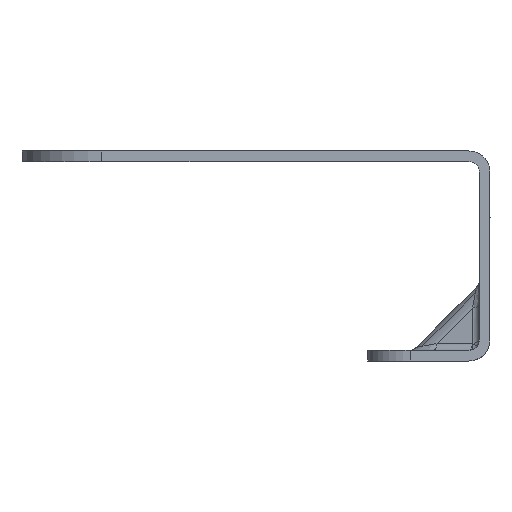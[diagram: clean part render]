
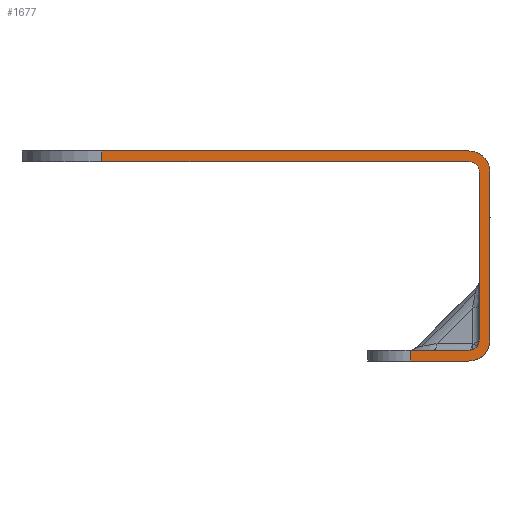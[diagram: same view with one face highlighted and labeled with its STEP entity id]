
A CAD part, front view. The second image highlights one B-rep face of the part: STEP entity #1677.
In plain terms, the highlighted planar face has unit normal (0, -1, 0).
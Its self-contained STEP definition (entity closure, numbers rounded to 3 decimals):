
#1549=AXIS2_PLACEMENT_3D('Circle Axis2P3D',#1547,#1548,$) ;
#1562=AXIS2_PLACEMENT_3D('Plane Axis2P3D',#1559,#1560,#1561) ;
#1582=AXIS2_PLACEMENT_3D('Circle Axis2P3D',#1580,#1581,$) ;
#1589=AXIS2_PLACEMENT_3D('Circle Axis2P3D',#1587,#1588,$) ;
#441=CARTESIAN_POINT('Vertex',(1473.999,-738.999,78.)) ;
#444=CARTESIAN_POINT('Line Origine',(1473.999,-738.999,62.25)) ;
#448=CARTESIAN_POINT('Vertex',(1473.999,-738.999,46.5)) ;
#1111=CARTESIAN_POINT('Vertex',(1469.999,-738.999,42.5)) ;
#1114=CARTESIAN_POINT('Line Origine',(1464.499,-738.999,42.5)) ;
#1118=CARTESIAN_POINT('Vertex',(1458.999,-738.999,42.5)) ;
#1544=CARTESIAN_POINT('Vertex',(1469.999,-738.999,82.)) ;
#1547=CARTESIAN_POINT('Axis2P3D Location',(1469.999,-738.999,78.)) ;
#1559=CARTESIAN_POINT('Axis2P3D Location',(1385.999,-738.999,20.)) ;
#1564=CARTESIAN_POINT('Line Origine',(1400.999,-738.999,81.)) ;
#1568=CARTESIAN_POINT('Vertex',(1400.999,-738.999,82.)) ;
#1570=CARTESIAN_POINT('Vertex',(1400.999,-738.999,80.)) ;
#1573=CARTESIAN_POINT('Line Origine',(1435.499,-738.999,80.)) ;
#1577=CARTESIAN_POINT('Vertex',(1469.999,-738.999,80.)) ;
#1580=CARTESIAN_POINT('Axis2P3D Location',(1469.999,-738.999,78.)) ;
#1584=CARTESIAN_POINT('Vertex',(1471.413,-738.999,79.414)) ;
#1587=CARTESIAN_POINT('Axis2P3D Location',(1469.999,-738.999,78.)) ;
#1591=CARTESIAN_POINT('Vertex',(1471.999,-738.999,78.)) ;
#1594=CARTESIAN_POINT('Line Origine',(1471.999,-738.999,62.25)) ;
#1598=CARTESIAN_POINT('Vertex',(1471.999,-738.999,46.5)) ;
#1602=CARTESIAN_POINT('Control Point',(1471.999,-738.999,46.5)) ;
#1603=CARTESIAN_POINT('Control Point',(1471.999,-738.999,46.312)) ;
#1604=CARTESIAN_POINT('Control Point',(1471.977,-738.999,46.123)) ;
#1605=CARTESIAN_POINT('Control Point',(1471.933,-738.999,45.938)) ;
#1606=CARTESIAN_POINT('Control Point',(1471.823,-738.999,45.641)) ;
#1607=CARTESIAN_POINT('Control Point',(1471.658,-738.999,45.373)) ;
#1608=CARTESIAN_POINT('Control Point',(1471.584,-738.999,45.271)) ;
#1609=CARTESIAN_POINT('Control Point',(1471.502,-738.999,45.175)) ;
#1610=CARTESIAN_POINT('Control Point',(1471.413,-738.999,45.086)) ;
#1611=CARTESIAN_POINT('Vertex',(1471.413,-738.999,45.086)) ;
#1615=CARTESIAN_POINT('Control Point',(1471.413,-738.999,45.086)) ;
#1616=CARTESIAN_POINT('Control Point',(1471.28,-738.999,44.953)) ;
#1617=CARTESIAN_POINT('Control Point',(1471.131,-738.999,44.835)) ;
#1618=CARTESIAN_POINT('Control Point',(1470.969,-738.999,44.736)) ;
#1619=CARTESIAN_POINT('Control Point',(1470.681,-738.999,44.603)) ;
#1620=CARTESIAN_POINT('Control Point',(1470.375,-738.999,44.53)) ;
#1621=CARTESIAN_POINT('Control Point',(1470.25,-738.999,44.51)) ;
#1622=CARTESIAN_POINT('Control Point',(1470.125,-738.999,44.5)) ;
#1623=CARTESIAN_POINT('Control Point',(1469.999,-738.999,44.5)) ;
#1624=CARTESIAN_POINT('Vertex',(1469.999,-738.999,44.5)) ;
#1627=CARTESIAN_POINT('Line Origine',(1464.499,-738.999,44.5)) ;
#1631=CARTESIAN_POINT('Vertex',(1458.999,-738.999,44.5)) ;
#1634=CARTESIAN_POINT('Line Origine',(1458.999,-738.999,43.5)) ;
#1640=CARTESIAN_POINT('Control Point',(1473.999,-738.999,46.5)) ;
#1641=CARTESIAN_POINT('Control Point',(1473.999,-738.999,46.108)) ;
#1642=CARTESIAN_POINT('Control Point',(1473.951,-738.999,45.716)) ;
#1643=CARTESIAN_POINT('Control Point',(1473.855,-738.999,45.332)) ;
#1644=CARTESIAN_POINT('Control Point',(1473.571,-738.999,44.595)) ;
#1645=CARTESIAN_POINT('Control Point',(1473.118,-738.999,43.949)) ;
#1646=CARTESIAN_POINT('Control Point',(1472.852,-738.999,43.655)) ;
#1647=CARTESIAN_POINT('Control Point',(1472.255,-738.999,43.139)) ;
#1648=CARTESIAN_POINT('Control Point',(1471.55,-738.999,42.782)) ;
#1649=CARTESIAN_POINT('Control Point',(1471.178,-738.999,42.647)) ;
#1650=CARTESIAN_POINT('Control Point',(1470.713,-738.999,42.542)) ;
#1651=CARTESIAN_POINT('Control Point',(1470.242,-738.999,42.506)) ;
#1652=CARTESIAN_POINT('Control Point',(1470.161,-738.999,42.502)) ;
#1653=CARTESIAN_POINT('Control Point',(1470.08,-738.999,42.5)) ;
#1654=CARTESIAN_POINT('Control Point',(1469.999,-738.999,42.5)) ;
#1656=CARTESIAN_POINT('Line Origine',(1435.499,-738.999,82.)) ;
#445=DIRECTION('Vector Direction',(0.,0.,-1.)) ;
#1115=DIRECTION('Vector Direction',(1.,0.,0.)) ;
#1548=DIRECTION('Axis2P3D Direction',(0.,-1.,0.)) ;
#1560=DIRECTION('Axis2P3D Direction',(0.,-1.,0.)) ;
#1561=DIRECTION('Axis2P3D XDirection',(1.,0.,0.)) ;
#1565=DIRECTION('Vector Direction',(0.,0.,-1.)) ;
#1574=DIRECTION('Vector Direction',(1.,0.,0.)) ;
#1581=DIRECTION('Axis2P3D Direction',(0.,-1.,0.)) ;
#1588=DIRECTION('Axis2P3D Direction',(0.,-1.,0.)) ;
#1595=DIRECTION('Vector Direction',(0.,0.,1.)) ;
#1628=DIRECTION('Vector Direction',(-1.,0.,0.)) ;
#1635=DIRECTION('Vector Direction',(0.,0.,-1.)) ;
#1657=DIRECTION('Vector Direction',(1.,0.,0.)) ;
#446=VECTOR('Line Direction',#445,1.) ;
#1116=VECTOR('Line Direction',#1115,1.) ;
#1566=VECTOR('Line Direction',#1565,1.) ;
#1575=VECTOR('Line Direction',#1574,1.) ;
#1596=VECTOR('Line Direction',#1595,1.) ;
#1629=VECTOR('Line Direction',#1628,1.) ;
#1636=VECTOR('Line Direction',#1635,1.) ;
#1658=VECTOR('Line Direction',#1657,1.) ;
#1662=ORIENTED_EDGE('',*,*,#1572,.T.) ;
#1663=ORIENTED_EDGE('',*,*,#1579,.T.) ;
#1664=ORIENTED_EDGE('',*,*,#1586,.T.) ;
#1665=ORIENTED_EDGE('',*,*,#1593,.T.) ;
#1666=ORIENTED_EDGE('',*,*,#1600,.T.) ;
#1667=ORIENTED_EDGE('',*,*,#1613,.T.) ;
#1668=ORIENTED_EDGE('',*,*,#1626,.T.) ;
#1669=ORIENTED_EDGE('',*,*,#1633,.T.) ;
#1670=ORIENTED_EDGE('',*,*,#1638,.T.) ;
#1671=ORIENTED_EDGE('',*,*,#1120,.T.) ;
#1672=ORIENTED_EDGE('',*,*,#1655,.F.) ;
#1673=ORIENTED_EDGE('',*,*,#450,.F.) ;
#1674=ORIENTED_EDGE('',*,*,#1551,.F.) ;
#1675=ORIENTED_EDGE('',*,*,#1660,.T.) ;
#1677=ADVANCED_FACE('\X2\5B9A4F4D5B544F4D7F6E79FB52A8\X0\',(#1676),#1563,.T.) ;
#1601=B_SPLINE_CURVE_WITH_KNOTS('',5,(#1602,#1603,#1604,#1605,#1606,#1607,#1608,#1609,#1610),.UNSPECIFIED.,.F.,.U.,(6,3,6),(0.,1.335,2.225),.UNSPECIFIED.) ;
#1614=B_SPLINE_CURVE_WITH_KNOTS('',5,(#1615,#1616,#1617,#1618,#1619,#1620,#1621,#1622,#1623),.UNSPECIFIED.,.F.,.U.,(6,3,6),(0.,1.335,2.225),.UNSPECIFIED.) ;
#1639=B_SPLINE_CURVE_WITH_KNOTS('',5,(#1640,#1641,#1642,#1643,#1644,#1645,#1646,#1647,#1648,#1649,#1650,#1651,#1652,#1653,#1654),.UNSPECIFIED.,.F.,.U.,(6,3,3,3,6),(0.,2.778,5.555,8.333,8.906),.UNSPECIFIED.) ;
#1550=CIRCLE('generated circle',#1549,4.) ;
#1583=CIRCLE('generated circle',#1582,2.) ;
#1590=CIRCLE('generated circle',#1589,2.) ;
#450=EDGE_CURVE('',#442,#449,#447,.T.) ;
#1120=EDGE_CURVE('',#1119,#1112,#1117,.T.) ;
#1551=EDGE_CURVE('',#1545,#442,#1550,.F.) ;
#1572=EDGE_CURVE('',#1569,#1571,#1567,.T.) ;
#1579=EDGE_CURVE('',#1571,#1578,#1576,.T.) ;
#1586=EDGE_CURVE('',#1578,#1585,#1583,.F.) ;
#1593=EDGE_CURVE('',#1585,#1592,#1590,.F.) ;
#1600=EDGE_CURVE('',#1592,#1599,#1597,.F.) ;
#1613=EDGE_CURVE('',#1599,#1612,#1601,.T.) ;
#1626=EDGE_CURVE('',#1612,#1625,#1614,.T.) ;
#1633=EDGE_CURVE('',#1625,#1632,#1630,.T.) ;
#1638=EDGE_CURVE('',#1632,#1119,#1637,.T.) ;
#1655=EDGE_CURVE('',#449,#1112,#1639,.T.) ;
#1660=EDGE_CURVE('',#1545,#1569,#1659,.F.) ;
#1661=EDGE_LOOP('',(#1662,#1663,#1664,#1665,#1666,#1667,#1668,#1669,#1670,#1671,#1672,#1673,#1674,#1675)) ;
#1676=FACE_OUTER_BOUND('',#1661,.T.) ;
#447=LINE('Line',#444,#446) ;
#1117=LINE('Line',#1114,#1116) ;
#1567=LINE('Line',#1564,#1566) ;
#1576=LINE('Line',#1573,#1575) ;
#1597=LINE('Line',#1594,#1596) ;
#1630=LINE('Line',#1627,#1629) ;
#1637=LINE('Line',#1634,#1636) ;
#1659=LINE('Line',#1656,#1658) ;
#1563=PLANE('Plane',#1562) ;
#442=VERTEX_POINT('',#441) ;
#449=VERTEX_POINT('',#448) ;
#1112=VERTEX_POINT('',#1111) ;
#1119=VERTEX_POINT('',#1118) ;
#1545=VERTEX_POINT('',#1544) ;
#1569=VERTEX_POINT('',#1568) ;
#1571=VERTEX_POINT('',#1570) ;
#1578=VERTEX_POINT('',#1577) ;
#1585=VERTEX_POINT('',#1584) ;
#1592=VERTEX_POINT('',#1591) ;
#1599=VERTEX_POINT('',#1598) ;
#1612=VERTEX_POINT('',#1611) ;
#1625=VERTEX_POINT('',#1624) ;
#1632=VERTEX_POINT('',#1631) ;
